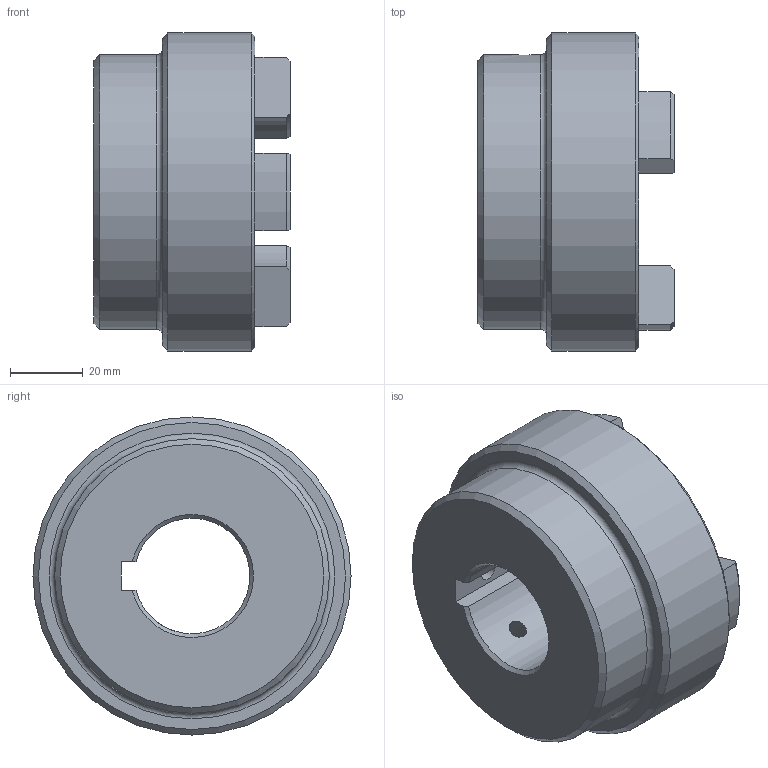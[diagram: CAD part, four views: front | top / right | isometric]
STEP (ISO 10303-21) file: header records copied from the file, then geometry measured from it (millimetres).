
FILE_DESCRIPTION (( 'STEP AP203' ), '1' );
FILE_NAME ('RC3.step', '2024-07-24T12:49:09', ( 'Adlan' ), ( '' ), 'SwSTEP 2.0', 'SolidWorks 2013', '' );
FILE_SCHEMA (( 'CONFIG_CONTROL_DESIGN' ));
Length unit declared in the file: inch
Products named in the file (1): RC3
Bounding box: 53.85 x 87.38 x 87.38 mm (x, y, z)
Volume: 168639 mm3; surface area: 30536.8 mm2
Topology: 1 solids, 1 shells, 67 faces, 168 edges, 105 vertices
Faces by surface type: cylinder 26, plane 16, torus 13, cone 12
Full cylindrical faces by diameter (mm): 5.105 x2, 75.438 x1, 87.376 x1
Entity records: 2241 total; most frequent: CARTESIAN_POINT 566, DIRECTION 354, ORIENTED_EDGE 310, EDGE_CURVE 155, AXIS2_PLACEMENT_3D 142, VERTEX_POINT 102, EDGE_LOOP 85, CIRCLE 74
